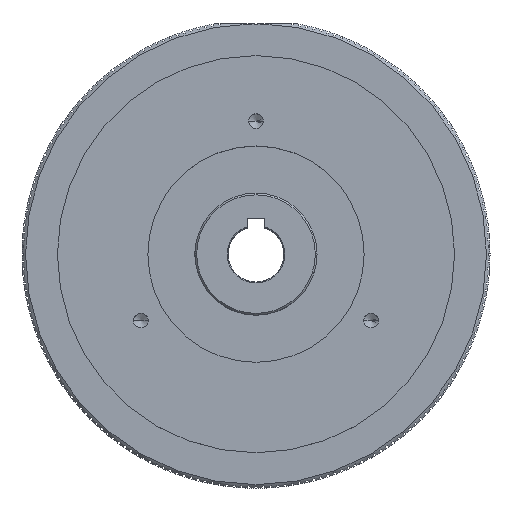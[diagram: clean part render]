
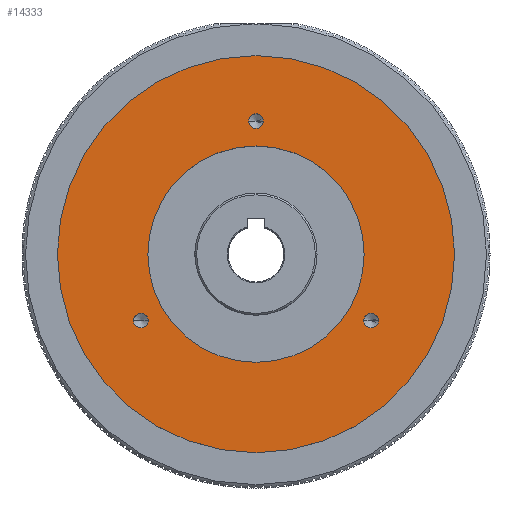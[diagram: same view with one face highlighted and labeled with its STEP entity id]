
A CAD part, top view. The second image highlights one B-rep face of the part: STEP entity #14333.
In plain terms, the highlighted planar face has unit normal (0, 0, 1).
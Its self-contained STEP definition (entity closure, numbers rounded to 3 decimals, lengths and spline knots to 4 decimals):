
#588 = EDGE_LOOP ( 'NONE', ( #32576, #40829 ) ) ;
#835 = DIRECTION ( 'NONE',  ( 1., 0., 0. ) ) ;
#1069 = VERTEX_POINT ( 'NONE', #34323 ) ;
#1446 = DIRECTION ( 'NONE',  ( 1., 0., 0. ) ) ;
#2774 = DIRECTION ( 'NONE',  ( 0., 0., 1. ) ) ;
#2920 = EDGE_CURVE ( 'NONE', #1069, #12751, #12408, .T. ) ;
#3623 = ORIENTED_EDGE ( 'NONE', *, *, #30029, .F. ) ;
#5500 = CIRCLE ( 'NONE', #7659, 0.0827 ) ;
#5541 = VERTEX_POINT ( 'NONE', #6251 ) ;
#6251 = CARTESIAN_POINT ( 'NONE',  ( -1.3817, -0.75, -0.34 ) ) ;
#6644 = DIRECTION ( 'NONE',  ( -1., 0., 0. ) ) ;
#6941 = FACE_BOUND ( 'NONE', #28561, .T. ) ;
#6997 = CIRCLE ( 'NONE', #22261, 2.24 ) ;
#7091 = ORIENTED_EDGE ( 'NONE', *, *, #30444, .T. ) ;
#7415 = CIRCLE ( 'NONE', #14849, 1.2204 ) ;
#7636 = ORIENTED_EDGE ( 'NONE', *, *, #39225, .T. ) ;
#7659 = AXIS2_PLACEMENT_3D ( 'NONE', #28496, #8473, #31881 ) ;
#8473 = DIRECTION ( 'NONE',  ( 0., 0., 1. ) ) ;
#8674 = AXIS2_PLACEMENT_3D ( 'NONE', #40965, #20888, #835 ) ;
#8881 = CARTESIAN_POINT ( 'NONE',  ( 0., 0., -0.34 ) ) ;
#10401 = AXIS2_PLACEMENT_3D ( 'NONE', #31816, #11769, #35201 ) ;
#10970 = EDGE_CURVE ( 'NONE', #17395, #38252, #29325, .T. ) ;
#10973 = CIRCLE ( 'NONE', #37402, 0.0827 ) ;
#11482 = CARTESIAN_POINT ( 'NONE',  ( 2.24, 0., -0.34 ) ) ;
#11699 = AXIS2_PLACEMENT_3D ( 'NONE', #22800, #2774, #26152 ) ;
#11769 = DIRECTION ( 'NONE',  ( 0., 0., 1. ) ) ;
#12240 = DIRECTION ( 'NONE',  ( 1., 0., 0. ) ) ;
#12408 = CIRCLE ( 'NONE', #8674, 0.0827 ) ;
#12751 = VERTEX_POINT ( 'NONE', #22399 ) ;
#13145 = CIRCLE ( 'NONE', #10401, 0.0827 ) ;
#13547 = EDGE_LOOP ( 'NONE', ( #7091, #7636 ) ) ;
#13936 = AXIS2_PLACEMENT_3D ( 'NONE', #39824, #19766, #43197 ) ;
#13971 = CARTESIAN_POINT ( 'NONE',  ( 0., 0., -0.34 ) ) ;
#14096 = VERTEX_POINT ( 'NONE', #34902 ) ;
#14333 = ADVANCED_FACE ( 'NONE', ( #15850, #6941, #16888, #24733, #42578 ), #43258, .F. ) ;
#14418 = CARTESIAN_POINT ( 'NONE',  ( -1.2164, -0.75, -0.34 ) ) ;
#14849 = AXIS2_PLACEMENT_3D ( 'NONE', #13971, #37396, #17337 ) ;
#15456 = CARTESIAN_POINT ( 'NONE',  ( -1.299, -0.75, -0.34 ) ) ;
#15650 = EDGE_CURVE ( 'NONE', #17133, #34727, #13145, .T. ) ;
#15850 = FACE_BOUND ( 'NONE', #38343, .T. ) ;
#16393 = DIRECTION ( 'NONE',  ( 0., 0., 1. ) ) ;
#16888 = FACE_BOUND ( 'NONE', #588, .T. ) ;
#17133 = VERTEX_POINT ( 'NONE', #28518 ) ;
#17333 = CIRCLE ( 'NONE', #11699, 0.0827 ) ;
#17337 = DIRECTION ( 'NONE',  ( 1., 0., 0. ) ) ;
#17395 = VERTEX_POINT ( 'NONE', #20602 ) ;
#17873 = VERTEX_POINT ( 'NONE', #11482 ) ;
#18646 = EDGE_CURVE ( 'NONE', #38524, #5541, #10973, .T. ) ;
#18805 = DIRECTION ( 'NONE',  ( 1., 0., 0. ) ) ;
#19766 = DIRECTION ( 'NONE',  ( 0., 0., 1. ) ) ;
#20602 = CARTESIAN_POINT ( 'NONE',  ( 1.2204, 0., -0.34 ) ) ;
#20855 = AXIS2_PLACEMENT_3D ( 'NONE', #41573, #21479, #1446 ) ;
#20888 = DIRECTION ( 'NONE',  ( 0., 0., 1. ) ) ;
#21479 = DIRECTION ( 'NONE',  ( 0., 0., 1. ) ) ;
#22261 = AXIS2_PLACEMENT_3D ( 'NONE', #8881, #32283, #12240 ) ;
#22399 = CARTESIAN_POINT ( 'NONE',  ( 1.3817, -0.75, -0.34 ) ) ;
#22800 = CARTESIAN_POINT ( 'NONE',  ( -1.299, -0.75, -0.34 ) ) ;
#23316 = CARTESIAN_POINT ( 'NONE',  ( 0., 0.6889, -0.34 ) ) ;
#24315 = ORIENTED_EDGE ( 'NONE', *, *, #2920, .F. ) ;
#24733 = FACE_BOUND ( 'NONE', #25740, .T. ) ;
#25188 = ORIENTED_EDGE ( 'NONE', *, *, #10970, .F. ) ;
#25740 = EDGE_LOOP ( 'NONE', ( #25188, #43378 ) ) ;
#26152 = DIRECTION ( 'NONE',  ( 1., 0., 0. ) ) ;
#26377 = CIRCLE ( 'NONE', #32913, 0.0827 ) ;
#26668 = DIRECTION ( 'NONE',  ( 0., 0., -1. ) ) ;
#26871 = CIRCLE ( 'NONE', #20855, 2.24 ) ;
#27486 = ORIENTED_EDGE ( 'NONE', *, *, #43180, .F. ) ;
#28496 = CARTESIAN_POINT ( 'NONE',  ( 0., 1.5, -0.34 ) ) ;
#28518 = CARTESIAN_POINT ( 'NONE',  ( 0.0827, 1.5, -0.34 ) ) ;
#28561 = EDGE_LOOP ( 'NONE', ( #42315, #27486 ) ) ;
#29325 = CIRCLE ( 'NONE', #13936, 1.2204 ) ;
#30029 = EDGE_CURVE ( 'NONE', #12751, #1069, #26377, .T. ) ;
#30444 = EDGE_CURVE ( 'NONE', #17873, #14096, #6997, .T. ) ;
#31816 = CARTESIAN_POINT ( 'NONE',  ( 0., 1.5, -0.34 ) ) ;
#31881 = DIRECTION ( 'NONE',  ( 1., 0., 0. ) ) ;
#32283 = DIRECTION ( 'NONE',  ( 0., 0., 1. ) ) ;
#32528 = AXIS2_PLACEMENT_3D ( 'NONE', #23316, #26668, #6644 ) ;
#32576 = ORIENTED_EDGE ( 'NONE', *, *, #15650, .F. ) ;
#32913 = AXIS2_PLACEMENT_3D ( 'NONE', #36446, #16393, #39817 ) ;
#33593 = EDGE_CURVE ( 'NONE', #38252, #17395, #7415, .T. ) ;
#34323 = CARTESIAN_POINT ( 'NONE',  ( 1.2164, -0.75, -0.34 ) ) ;
#34727 = VERTEX_POINT ( 'NONE', #36174 ) ;
#34902 = CARTESIAN_POINT ( 'NONE',  ( -2.24, 0., -0.34 ) ) ;
#35201 = DIRECTION ( 'NONE',  ( 1., 0., 0. ) ) ;
#36174 = CARTESIAN_POINT ( 'NONE',  ( -0.0827, 1.5, -0.34 ) ) ;
#36446 = CARTESIAN_POINT ( 'NONE',  ( 1.299, -0.75, -0.34 ) ) ;
#37396 = DIRECTION ( 'NONE',  ( 0., 0., 1. ) ) ;
#37402 = AXIS2_PLACEMENT_3D ( 'NONE', #15456, #38873, #18805 ) ;
#38190 = EDGE_CURVE ( 'NONE', #34727, #17133, #5500, .T. ) ;
#38252 = VERTEX_POINT ( 'NONE', #42443 ) ;
#38343 = EDGE_LOOP ( 'NONE', ( #3623, #24315 ) ) ;
#38524 = VERTEX_POINT ( 'NONE', #14418 ) ;
#38873 = DIRECTION ( 'NONE',  ( 0., 0., 1. ) ) ;
#39225 = EDGE_CURVE ( 'NONE', #14096, #17873, #26871, .T. ) ;
#39817 = DIRECTION ( 'NONE',  ( 1., 0., 0. ) ) ;
#39824 = CARTESIAN_POINT ( 'NONE',  ( 0., 0., -0.34 ) ) ;
#40829 = ORIENTED_EDGE ( 'NONE', *, *, #38190, .F. ) ;
#40965 = CARTESIAN_POINT ( 'NONE',  ( 1.299, -0.75, -0.34 ) ) ;
#41573 = CARTESIAN_POINT ( 'NONE',  ( 0., 0., -0.34 ) ) ;
#42315 = ORIENTED_EDGE ( 'NONE', *, *, #18646, .F. ) ;
#42443 = CARTESIAN_POINT ( 'NONE',  ( -1.2204, 0., -0.34 ) ) ;
#42578 = FACE_OUTER_BOUND ( 'NONE', #13547, .T. ) ;
#43180 = EDGE_CURVE ( 'NONE', #5541, #38524, #17333, .T. ) ;
#43197 = DIRECTION ( 'NONE',  ( 1., 0., 0. ) ) ;
#43258 = PLANE ( 'NONE',  #32528 ) ;
#43378 = ORIENTED_EDGE ( 'NONE', *, *, #33593, .F. ) ;
